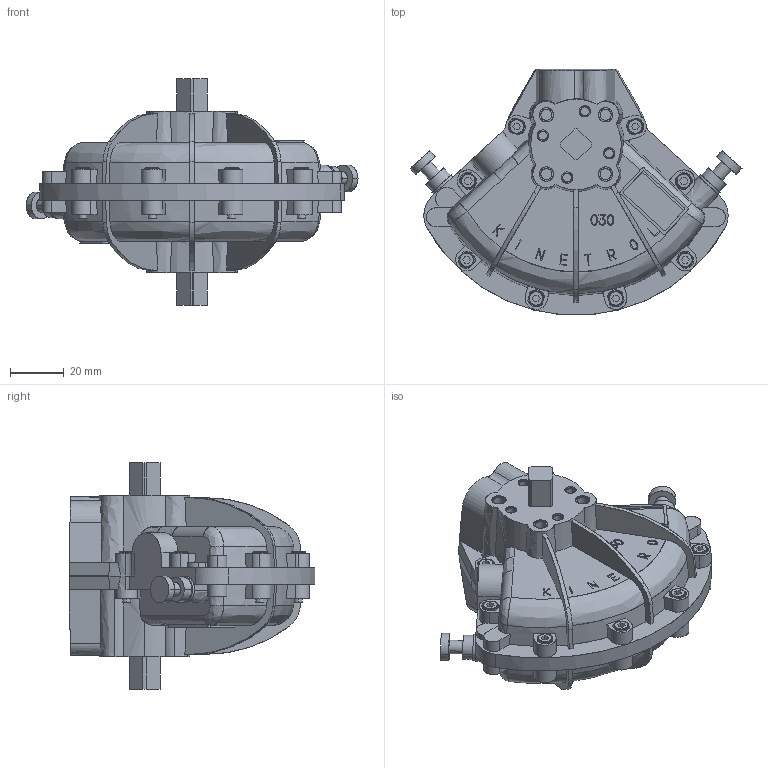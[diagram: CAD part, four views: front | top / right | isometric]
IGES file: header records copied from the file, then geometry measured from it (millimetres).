
Start section: Comment
Global section: file name: 034-100 IGES.igs; native system:  By UGS Corp.; preprocessor: XPlus GENERIC/IGES 3.0; author: Author; organization: Title; date: 20090219.162501; units: millimetre
Bounding box: 123.23 x 91.19 x 84 mm (x, y, z)
Surface area: 38477.4 mm2 (no closed solid volume)
Topology: 0 solids, 0 shells, 1147 faces, 6106 edges, 6106 vertices
Faces by surface type: bspline 1147
